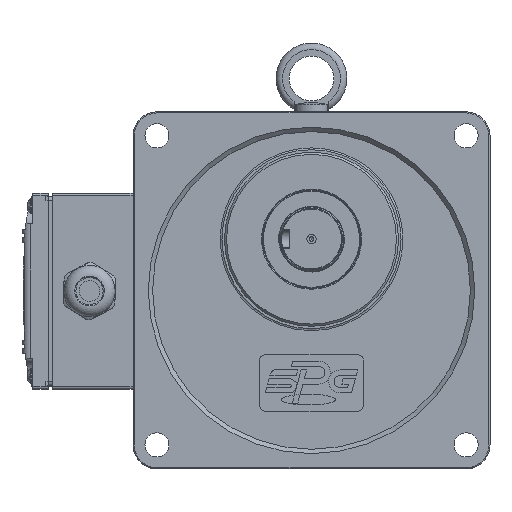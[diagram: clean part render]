
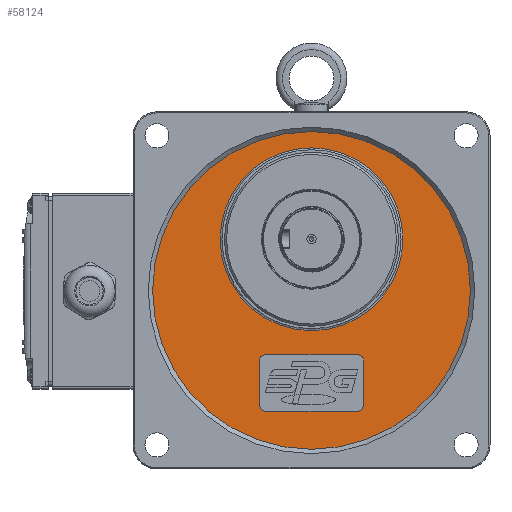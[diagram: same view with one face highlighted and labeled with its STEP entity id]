
A CAD part, top view. The second image highlights one B-rep face of the part: STEP entity #58124.
In plain terms, the highlighted planar face has unit normal (0, 0, 1).
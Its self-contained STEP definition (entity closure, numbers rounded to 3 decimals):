
#3347=FACE_BOUND('',#10732,.T.);
#3348=FACE_BOUND('',#10733,.T.);
#4169=PLANE('',#63304);
#7178=FACE_OUTER_BOUND('',#10731,.T.);
#10731=EDGE_LOOP('',(#44224));
#10732=EDGE_LOOP('',(#44225,#44226,#44227,#44228,#44229,#44230,#44231,#44232));
#10733=EDGE_LOOP('',(#44233));
#14400=CIRCLE('',#63085,73.);
#14499=CIRCLE('',#63241,42.);
#14537=CIRCLE('',#63305,3.);
#14538=CIRCLE('',#63306,3.);
#14539=CIRCLE('',#63307,3.);
#14540=CIRCLE('',#63308,3.);
#18090=LINE('',#99487,#21169);
#18091=LINE('',#99491,#21170);
#18092=LINE('',#99495,#21171);
#18093=LINE('',#99499,#21172);
#21169=VECTOR('',#74696,20.);
#21170=VECTOR('',#74699,42.);
#21171=VECTOR('',#74702,20.);
#21172=VECTOR('',#74705,42.);
#24886=VERTEX_POINT('',#98645);
#24993=VERTEX_POINT('',#99299);
#25061=VERTEX_POINT('',#99485);
#25062=VERTEX_POINT('',#99486);
#25063=VERTEX_POINT('',#99488);
#25064=VERTEX_POINT('',#99490);
#25065=VERTEX_POINT('',#99492);
#25066=VERTEX_POINT('',#99494);
#25067=VERTEX_POINT('',#99496);
#25068=VERTEX_POINT('',#99498);
#31628=EDGE_CURVE('',#24886,#24886,#14400,.T.);
#31800=EDGE_CURVE('',#24993,#24993,#14499,.T.);
#31891=EDGE_CURVE('',#25061,#25062,#18090,.T.);
#31892=EDGE_CURVE('',#25063,#25062,#14537,.T.);
#31893=EDGE_CURVE('',#25063,#25064,#18091,.T.);
#31894=EDGE_CURVE('',#25065,#25064,#14538,.T.);
#31895=EDGE_CURVE('',#25065,#25066,#18092,.T.);
#31896=EDGE_CURVE('',#25067,#25066,#14539,.T.);
#31897=EDGE_CURVE('',#25067,#25068,#18093,.T.);
#31898=EDGE_CURVE('',#25061,#25068,#14540,.T.);
#44224=ORIENTED_EDGE('',*,*,#31628,.T.);
#44225=ORIENTED_EDGE('',*,*,#31891,.T.);
#44226=ORIENTED_EDGE('',*,*,#31892,.F.);
#44227=ORIENTED_EDGE('',*,*,#31893,.T.);
#44228=ORIENTED_EDGE('',*,*,#31894,.F.);
#44229=ORIENTED_EDGE('',*,*,#31895,.T.);
#44230=ORIENTED_EDGE('',*,*,#31896,.F.);
#44231=ORIENTED_EDGE('',*,*,#31897,.T.);
#44232=ORIENTED_EDGE('',*,*,#31898,.F.);
#44233=ORIENTED_EDGE('',*,*,#31800,.F.);
#58124=ADVANCED_FACE('',(#7178,#3347,#3348),#4169,.F.);
#63085=AXIS2_PLACEMENT_3D('',#98646,#74150,#74151);
#63241=AXIS2_PLACEMENT_3D('',#99301,#74515,#74516);
#63304=AXIS2_PLACEMENT_3D('',#99484,#74694,#74695);
#63305=AXIS2_PLACEMENT_3D('',#99489,#74697,#74698);
#63306=AXIS2_PLACEMENT_3D('',#99493,#74700,#74701);
#63307=AXIS2_PLACEMENT_3D('',#99497,#74703,#74704);
#63308=AXIS2_PLACEMENT_3D('',#99500,#74706,#74707);
#74150=DIRECTION('center_axis',(0.,0.,
1.));
#74151=DIRECTION('ref_axis',(-1.,0.,0.));
#74515=DIRECTION('center_axis',(0.,0.,
1.));
#74516=DIRECTION('ref_axis',(-1.,0.,0.));
#74694=DIRECTION('center_axis',(0.,0.,
-1.));
#74695=DIRECTION('ref_axis',(-1.,0.,0.));
#74696=DIRECTION('',(0.,1.,0.));
#74697=DIRECTION('center_axis',(0.,0.,
1.));
#74698=DIRECTION('ref_axis',(-0.707,0.707,0.));
#74699=DIRECTION('',(1.,0.,0.));
#74700=DIRECTION('center_axis',(0.,0.,
1.));
#74701=DIRECTION('ref_axis',(0.707,0.707,0.));
#74702=DIRECTION('',(0.,-1.,0.));
#74703=DIRECTION('center_axis',(0.,0.,
1.));
#74704=DIRECTION('ref_axis',(0.707,-0.707,0.));
#74705=DIRECTION('',(-1.,0.,0.));
#74706=DIRECTION('center_axis',(0.,0.,
1.));
#74707=DIRECTION('ref_axis',(-0.707,-0.707,0.));
#98645=CARTESIAN_POINT('',(14.024,10.241,26.5));
#98646=CARTESIAN_POINT('Origin',(-58.976,10.241,26.5));
#99299=CARTESIAN_POINT('',(-100.976,33.741,26.5));
#99301=CARTESIAN_POINT('Origin',(-58.976,33.741,26.5));
#99484=CARTESIAN_POINT('Origin',(-58.976,10.241,26.5));
#99485=CARTESIAN_POINT('',(-82.976,-42.259,26.5));
#99486=CARTESIAN_POINT('',(-82.976,-22.259,26.5));
#99487=CARTESIAN_POINT('',(-82.976,-42.259,26.5));
#99488=CARTESIAN_POINT('',(-79.976,-19.259,26.5));
#99489=CARTESIAN_POINT('Origin',(-79.976,-22.259,26.5));
#99490=CARTESIAN_POINT('',(-37.976,-19.259,26.5));
#99491=CARTESIAN_POINT('',(-79.976,-19.259,26.5));
#99492=CARTESIAN_POINT('',(-34.976,-22.259,26.5));
#99493=CARTESIAN_POINT('Origin',(-37.976,-22.259,26.5));
#99494=CARTESIAN_POINT('',(-34.976,-42.259,26.5));
#99495=CARTESIAN_POINT('',(-34.976,-22.259,26.5));
#99496=CARTESIAN_POINT('',(-37.976,-45.259,26.5));
#99497=CARTESIAN_POINT('Origin',(-37.976,-42.259,26.5));
#99498=CARTESIAN_POINT('',(-79.976,-45.259,26.5));
#99499=CARTESIAN_POINT('',(-37.976,-45.259,26.5));
#99500=CARTESIAN_POINT('Origin',(-79.976,-42.259,26.5));
